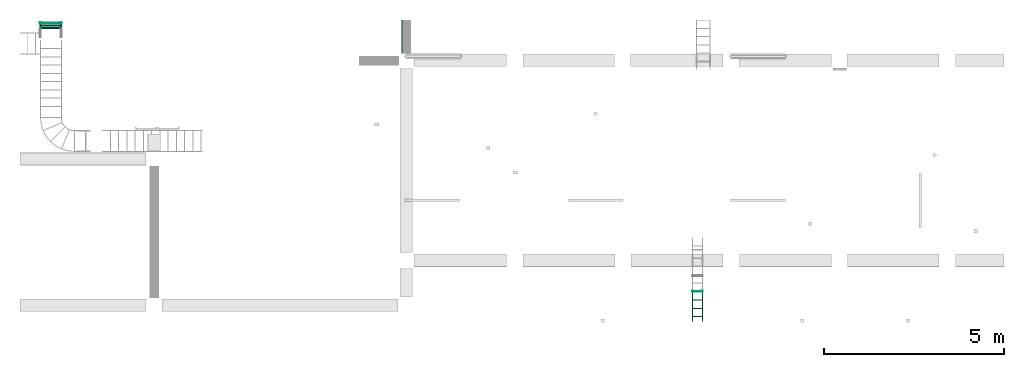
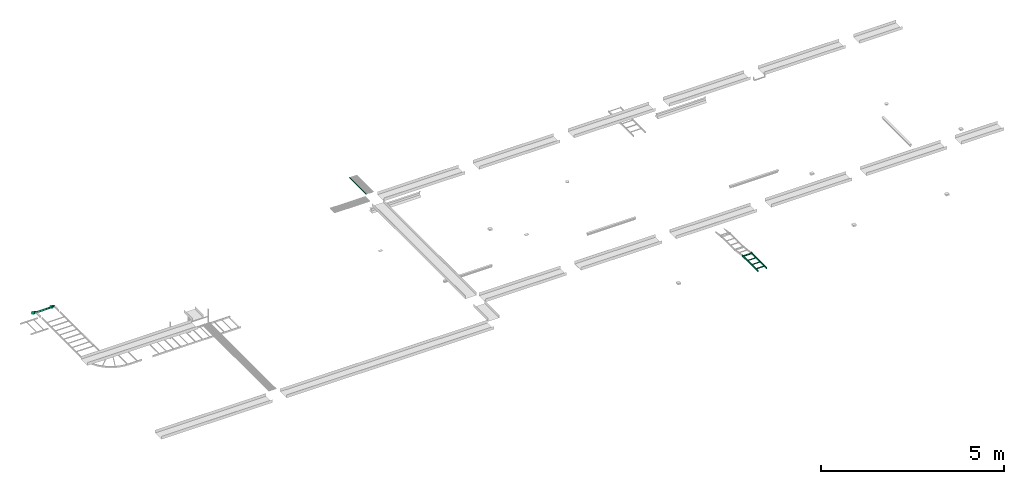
# One storey, part 13 of 14: 3 flow fittings, 3 flow segments.
"""IFC2X3 building model written with IfcOpenShell, lengths in millimetres."""

from ifc_helpers import new_model, entity, si_unit, converted_unit, derived_unit, direction, frame, origin_with_axes, place, context, subcontext, project, spatial, open_shell, faceted_brep, surface_model, source, transform, mapped, type_object, element, save


model = new_model("IFC2X3")

# Units and contexts
model_context = context("Model", 3, precision=0.01, world=frame((0.0, 4.29681676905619e-09, 0.0)), true_north=direction((4.01073788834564e-13, 1.0)))
plan_context = context("Plan", 3, precision=0.01, world=frame((0.0, 4.29681676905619e-09, 0.0)), true_north=direction((4.01073788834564e-13, 1.0)))
body_context = subcontext(model_context, "Body", "Model", "MODEL_VIEW")
ifc_project = project(units=[converted_unit("PLANEANGLEUNIT", "DEGREE", entity("IfcPositiveLengthMeasure", 0.0174532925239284), si_unit("PLANEANGLEUNIT", "RADIAN"), dimensions=[0, 0, 0, 0, 0, 0, 0]), si_unit("AREAUNIT", "SQUARE_METRE"), si_unit("LENGTHUNIT", "METRE", prefix="MILLI"), si_unit("MASSUNIT", "GRAM", prefix="KILO"), si_unit("POWERUNIT", "WATT"), si_unit("PRESSUREUNIT", "PASCAL", prefix="KILO"), si_unit("FORCEUNIT", "NEWTON", prefix="KILO"), si_unit("ELECTRICVOLTAGEUNIT", "VOLT"), si_unit("ELECTRICCURRENTUNIT", "AMPERE"), si_unit("THERMODYNAMICTEMPERATUREUNIT", "DEGREE_CELSIUS"), si_unit("TIMEUNIT", "SECOND"), si_unit("VOLUMEUNIT", "CUBIC_METRE"), derived_unit("LINEARVELOCITYUNIT", [(si_unit("LENGTHUNIT", "METRE"), 1), (si_unit("TIMEUNIT", "SECOND"), -1)]), derived_unit("VOLUMETRICFLOWRATEUNIT", [(si_unit("VOLUMEUNIT", "CUBIC_METRE"), 1), (si_unit("TIMEUNIT", "SECOND"), -1)]), derived_unit("THERMALTRANSMITTANCEUNIT", [(si_unit("POWERUNIT", "WATT"), 1), (si_unit("THERMODYNAMICTEMPERATUREUNIT", "KELVIN"), -1), (si_unit("AREAUNIT", "SQUARE_METRE"), -1)]), derived_unit("SOUNDPRESSUREUNIT", [(si_unit("PRESSUREUNIT", "PASCAL"), 1)])], contexts=[model_context, plan_context])

# Site, building, storey
site_placement = place(None, frame((0.0, -4.29681676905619e-09, 0.0), z_axis=(0.0, 0.0, 1.0), x_axis=(1.0, 0.0, 0.0)))
site = spatial("IfcSite", under=ifc_project, at=site_placement, Name="ENGM", CompositionType="ELEMENT")
building_placement = place(site_placement, frame((0.0, 4.29681676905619e-09, 0.0), z_axis=(0.0, 0.0, 1.0), x_axis=(1.0, 0.0, 0.0)))
building = spatial("IfcBuilding", under=site, at=building_placement, Name="TG", CompositionType="ELEMENT")
storey_placement = place(building_placement, frame((0.0, 0.0, 205200.0), z_axis=(0.0, 0.0, 1.0), x_axis=(1.0, 0.0, 0.0)))
storey = spatial("IfcBuildingStorey", under=building, at=storey_placement, Name="Nivå D + 1,2", CompositionType="ELEMENT", Elevation=205200.0)

# Flow fittings
cable_carrier_fitting_type = type_object("IfcCableCarrierFittingType", Name="Standard 10mm", PredefinedType="BEND")
shared_shape_1 = source(origin_with_axes(), body_context, "Body", "SurfaceModel", [
    surface_model("IfcShellBasedSurfaceModel", [(-7.42641, 27.92893, 274.60001), (27.92893, -7.42641, 274.60001), (8.46353, -20.43277, 274.60001), (-10.67064, 25.7612, 274.60001), (8.46353, -20.43277, 300.0), (27.92893, -7.42641, 300.0), (-7.42641, 27.92893, 300.0), (-10.67064, 25.7612, 300.0), (-7.42641, 27.92893, -300.0), (27.92893, -7.42641, -300.0), (8.46353, -20.43277, -300.0), (-10.67064, 25.7612, -300.0), (8.46353, -20.43277, -274.60001), (27.92893, -7.42641, -274.60001), (-7.42641, 27.92893, -274.60001), (-10.67064, 25.7612, -274.60001), (-14.49747, 25.0, 274.60001), (-14.49747, 25.0, 300.0), (-14.49747, -25.0, 274.60001), (-3.01697, -22.71639, 300.0), (-14.49747, -25.0, 300.0), (-3.01697, -22.71639, 274.60001), (16.41376, -15.1206, 274.60001), (18.19623, -13.92959, 300.0), (-14.49747, 25.0, -274.60001), (-14.49747, 25.0, -300.0), (-0.91441, -22.29816, -300.0), (-14.49747, -25.0, -300.0), (-3.01697, -22.71639, -274.60001), (-14.49747, -25.0, -274.60001), (18.19623, -13.92959, -274.60001), (18.19623, -13.92959, -300.0), (10.78279, 7.15474, -274.60001), (1.06263, 30.62128, -274.60001), (1.06263, 30.62128, 274.60001), (10.78279, 7.15474, 274.60001), (-12.68375, -2.56542, 274.60001), (-12.68375, -2.56542, -274.60001), (-22.40391, 20.90112, -274.60001), (-22.40391, 20.90112, 274.60001), (-24.49747, 25.0, 300.0), (-24.49747, 25.0, 274.60001), (-24.49747, -25.0, 274.60001), (-24.49747, -25.0, 300.0), (-24.49747, 25.0, -274.60001), (-24.49747, 25.0, -300.0), (-24.49747, -25.0, -300.0), (-24.49747, -25.0, -274.60001), (-0.35534, 35.0, 274.60001), (35.0, -0.35534, 274.60001), (-0.35534, 35.0, 300.0), (35.0, -0.35534, 300.0), (-0.35534, 35.0, -300.0), (35.0, -0.35534, -300.0), (-0.35534, 35.0, -274.60001), (35.0, -0.35534, -274.60001)], [open_shell([[[0, 1, 2]], [[0, 2, 3]], [[4, 5, 6]], [[4, 6, 7]], [[8, 9, 10]], [[8, 10, 11]], [[12, 13, 14]], [[12, 14, 15]], [[7, 16, 17]], [[3, 16, 7]], [[6, 0, 3]], [[7, 6, 3]], [[18, 19, 20]], [[21, 4, 19]], [[4, 21, 2]], [[4, 22, 23]], [[1, 5, 23]], [[22, 4, 2]], [[1, 23, 22]], [[18, 21, 19]], [[24, 11, 25]], [[15, 11, 24]], [[14, 8, 15]], [[11, 15, 8]], [[12, 26, 10]], [[27, 26, 28]], [[29, 27, 28]], [[26, 12, 28]], [[30, 12, 31]], [[9, 13, 30]], [[9, 30, 31]], [[12, 10, 31]], [[32, 33, 34]], [[34, 35, 32]], [[35, 36, 37]], [[37, 32, 35]], [[32, 37, 38]], [[38, 33, 32]], [[33, 38, 39]], [[39, 34, 33]], [[35, 34, 39]], [[39, 36, 35]], [[39, 38, 37]], [[37, 36, 39]], [[40, 41, 42]], [[42, 43, 40]], [[44, 45, 46]], [[46, 47, 44]], [[40, 17, 16]], [[16, 41, 40]], [[41, 18, 42]], [[18, 41, 16]], [[18, 16, 3]], [[3, 2, 18]], [[0, 48, 1]], [[1, 48, 49]], [[42, 18, 20]], [[20, 43, 42]], [[43, 20, 40]], [[17, 40, 20]], [[7, 17, 20]], [[20, 4, 7]], [[5, 50, 6]], [[50, 5, 51]], [[44, 24, 25]], [[25, 45, 44]], [[45, 27, 46]], [[27, 45, 25]], [[27, 25, 11]], [[11, 10, 27]], [[8, 52, 9]], [[9, 52, 53]], [[46, 27, 29]], [[29, 47, 46]], [[47, 29, 44]], [[24, 44, 29]], [[15, 24, 29]], [[29, 12, 15]], [[13, 54, 14]], [[54, 13, 55]], [[49, 48, 51]], [[50, 51, 48]], [[53, 52, 54]], [[54, 55, 53]], [[6, 50, 48]], [[48, 0, 6]], [[1, 49, 51]], [[51, 5, 1]], [[14, 54, 52]], [[52, 8, 14]], [[9, 53, 55]], [[55, 13, 9]]])]),
])
flow_fitting_1_placement = place(storey_placement, frame((322648.78146, 467286.02372, 4130.0), z_axis=(1.0, 0.0, 0.0), x_axis=(0.0, -0.707106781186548, 0.707106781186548)))
element("IfcFlowFitting", 1, at=flow_fitting_1_placement, inside=storey, type_object=cable_carrier_fitting_type, Name="Standard 10mm", context=body_context, shape_type="MappedRepresentation", body=[
    mapped(shared_shape_1, transform((0.0, 0.0, 0.0), scale=1.0)),
])
shared_shape_2 = source(origin_with_axes(), body_context, "Body", "SurfaceModel", [
    surface_model("IfcShellBasedSurfaceModel", [(12.69523, 0.47887, -124.6), (11.08068, 25.8275, -124.6), (11.08068, 25.8275, 124.6), (12.69523, 0.47887, 124.6), (-12.6534, -1.13569, 124.6), (-12.6534, -1.13569, -124.6), (-14.26796, 24.21295, -124.6), (-14.26796, 24.21295, 124.6), (-12.22929, 25.0, 150.0), (-12.22929, 25.0, 124.6), (-12.22929, -25.0, 124.6), (-12.22929, -25.0, 150.0), (-12.22929, 25.0, -124.6), (-12.22929, 25.0, -150.0), (-12.22929, -25.0, -150.0), (-12.22929, -25.0, -124.6), (-2.22929, 25.0, 150.0), (-2.22929, 25.0, 124.6), (-2.22929, -25.0, 124.6), (-1.59364, 25.02022, 124.6), (1.58462, -24.87866, 124.6), (-0.96056, 25.08081, 124.6), (8.95863, 26.34955, 124.6), (15.3023, -23.2464, 124.6), (5.38311, -24.51513, 124.6), (-2.22929, -25.0, 150.0), (-1.59364, 25.02022, 150.0), (1.58462, -24.87866, 150.0), (5.38311, -24.51513, 150.0), (-0.96056, 25.08081, 150.0), (15.3023, -23.2464, 150.0), (8.95863, 26.34955, 150.0), (-2.22929, 25.0, -124.6), (-2.22929, 25.0, -150.0), (-2.22929, -25.0, -150.0), (-1.59364, 25.02022, -150.0), (1.58462, -24.87866, -150.0), (-0.96056, 25.08081, -150.0), (8.95863, 26.34955, -150.0), (15.3023, -23.2464, -150.0), (5.38311, -24.51513, -150.0), (-2.22929, -25.0, -124.6), (-1.59364, 25.02022, -124.6), (1.58462, -24.87866, -124.6), (5.38311, -24.51513, -124.6), (-0.96056, 25.08081, -124.6), (15.3023, -23.2464, -124.6), (8.95863, 26.34955, -124.6)], [open_shell([[[0, 1, 2]], [[2, 3, 0]], [[3, 4, 5]], [[5, 0, 3]], [[0, 5, 6]], [[6, 1, 0]], [[1, 6, 7]], [[7, 2, 1]], [[3, 2, 7]], [[7, 4, 3]], [[7, 6, 5]], [[5, 4, 7]], [[8, 9, 10]], [[10, 11, 8]], [[12, 13, 14]], [[14, 15, 12]], [[8, 16, 17]], [[17, 9, 8]], [[10, 17, 18]], [[17, 10, 9]], [[18, 17, 19]], [[19, 20, 18]], [[21, 22, 23]], [[21, 24, 20]], [[24, 21, 23]], [[21, 20, 19]], [[10, 18, 25]], [[25, 11, 10]], [[11, 25, 16]], [[16, 8, 11]], [[26, 16, 25]], [[25, 27, 26]], [[27, 28, 29]], [[29, 30, 31]], [[30, 29, 28]], [[27, 29, 26]], [[12, 32, 33]], [[33, 13, 12]], [[14, 33, 34]], [[33, 14, 13]], [[34, 33, 35]], [[35, 36, 34]], [[37, 38, 39]], [[37, 40, 36]], [[40, 37, 39]], [[37, 36, 35]], [[14, 34, 41]], [[41, 15, 14]], [[15, 41, 32]], [[32, 12, 15]], [[42, 32, 41]], [[41, 43, 42]], [[43, 44, 45]], [[45, 46, 47]], [[46, 45, 44]], [[43, 45, 42]], [[19, 17, 16]], [[26, 19, 16]], [[29, 21, 26]], [[19, 26, 21]], [[27, 25, 18]], [[27, 18, 20]], [[27, 24, 28]], [[24, 27, 20]], [[32, 42, 33]], [[35, 33, 42]], [[45, 37, 35]], [[42, 45, 35]], [[41, 36, 43]], [[36, 41, 34]], [[36, 40, 44]], [[36, 44, 43]], [[23, 22, 30]], [[31, 30, 22]], [[39, 38, 47]], [[47, 46, 39]], [[29, 31, 22]], [[22, 21, 29]], [[24, 23, 30]], [[30, 28, 24]], [[45, 47, 38]], [[38, 37, 45]], [[40, 39, 46]], [[46, 44, 40]]])]),
])
flow_fitting_2_placement = place(storey_placement, frame((340570.0, 459976.89041, 4102.5), z_axis=(-1.0, 0.0, 0.0), x_axis=(0.0, 1.0, 0.0)))
element("IfcFlowFitting", 2, at=flow_fitting_2_placement, inside=storey, type_object=cable_carrier_fitting_type, Name="Standard 10mm", context=body_context, shape_type="MappedRepresentation", body=[
    mapped(shared_shape_2, transform((0.0, 0.0, 0.0), scale=1.0)),
])

# Flow segments
cable_carrier_segment_type_1 = type_object("IfcCableCarrierSegmentType", Name="Kabelbro", PredefinedType="CABLELADDERSEGMENT")
shared_shape_3 = source(origin_with_axes(), body_context, "Body", "SurfaceModel", [
    surface_model("IfcShellBasedSurfaceModel", [(0.0, -274.60001, 25.0), (0.0, -300.0, -25.0), (0.0, -300.0, 25.0), (0.0, -274.60001, -25.0), (0.0, 300.0, 25.0), (0.0, 274.60001, -25.0), (0.0, 274.60001, 25.0), (0.0, 300.0, -25.0), (148.92389, -300.0, 25.0), (148.92389, -300.0, -25.0), (148.92389, -274.60001, 25.0), (148.92389, -274.60001, -25.0), (148.92389, 274.60001, 25.0), (148.92389, 274.60001, -25.0), (148.92389, 300.0, 25.0), (148.92389, 300.0, -25.0), (87.16194, -274.60001, 0.4), (61.76194, -274.60001, 0.4), (61.76194, -274.60001, -25.0), (87.16194, -274.60001, -25.0), (61.76194, 274.60001, -25.0), (61.76194, 274.60001, 0.4), (87.16194, 274.60001, 0.4), (87.16194, 274.60001, -25.0)], [open_shell([[[0, 1, 2]], [[1, 0, 3]], [[4, 5, 6]], [[5, 4, 7]], [[8, 9, 10]], [[11, 10, 9]], [[12, 13, 14]], [[15, 14, 13]], [[1, 9, 8]], [[8, 2, 1]], [[2, 8, 10]], [[10, 0, 2]], [[0, 10, 11]], [[11, 3, 0]], [[3, 11, 9]], [[9, 1, 3]], [[4, 14, 15]], [[15, 7, 4]], [[7, 15, 13]], [[13, 5, 7]], [[5, 13, 12]], [[12, 6, 5]], [[6, 12, 14]], [[14, 4, 6]], [[16, 17, 18]], [[18, 19, 16]], [[20, 21, 22]], [[22, 23, 20]], [[19, 23, 22]], [[22, 16, 19]], [[16, 22, 21]], [[21, 17, 16]], [[17, 21, 20]], [[20, 18, 17]], [[18, 20, 23]], [[23, 19, 18]]])]),
])
flow_segment_1_placement = place(storey_placement, frame((322648.78146, 467408.65113, 4007.37258), z_axis=(0.0, 0.707106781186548, 0.707106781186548), x_axis=(0.0, -0.707106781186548, 0.707106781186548)))
element("IfcFlowSegment", 3, at=flow_segment_1_placement, inside=storey, type_object=cable_carrier_segment_type_1, Name="Kabelbro", context=body_context, shape_type="MappedRepresentation", body=[
    mapped(shared_shape_3, transform((0.0, 0.0, 0.0), scale=1.0)),
])
shared_shape_4 = source(origin_with_axes(), body_context, "Body", "SurfaceModel", [
    surface_model("IfcShellBasedSurfaceModel", [(241.30001, -124.6, 0.4), (215.89999, -124.6, 0.4), (215.89999, -124.6, -25.0), (241.30001, -124.6, -25.0), (215.89999, 124.6, -25.0), (215.89999, 124.6, 0.4), (241.30001, 124.6, 0.4), (241.30001, 124.6, -25.0), (469.89999, -124.6, 0.4), (444.50001, -124.6, 0.4), (444.50001, -124.6, -25.0), (469.89999, -124.6, -25.0), (444.50001, 124.6, -25.0), (444.50001, 124.6, 0.4), (469.89999, 124.6, 0.4), (469.89999, 124.6, -25.0), (698.50002, -124.6, 0.4), (673.09998, -124.6, 0.4), (673.09998, -124.6, -25.0), (698.50002, -124.6, -25.0), (673.09998, 124.6, -25.0), (673.09998, 124.6, 0.4), (698.50002, 124.6, 0.4), (698.50002, 124.6, -25.0), (0.0, -124.6, -25.0), (0.0, -150.0, 25.0), (0.0, -124.6, 25.0), (0.0, -150.0, -25.0), (0.0, 150.0, -25.0), (0.0, 124.6, 25.0), (0.0, 150.0, 25.0), (0.0, 124.6, -25.0), (824.66115, -124.6, 25.0), (824.66115, -150.0, 25.0), (824.66115, -124.6, -25.0), (824.66115, -150.0, -25.0), (824.66115, 150.0, 25.0), (824.66115, 124.6, 25.0), (824.66115, 150.0, -25.0), (824.66115, 124.6, -25.0)], [open_shell([[[0, 1, 2]], [[2, 3, 0]], [[4, 5, 6]], [[6, 7, 4]], [[3, 7, 6]], [[6, 0, 3]], [[0, 6, 5]], [[5, 1, 0]], [[1, 5, 4]], [[4, 2, 1]], [[2, 4, 7]], [[7, 3, 2]], [[8, 9, 10]], [[10, 11, 8]], [[12, 13, 14]], [[14, 15, 12]], [[11, 15, 14]], [[14, 8, 11]], [[8, 14, 13]], [[13, 9, 8]], [[9, 13, 12]], [[12, 10, 9]], [[10, 12, 15]], [[15, 11, 10]], [[16, 17, 18]], [[18, 19, 16]], [[20, 21, 22]], [[22, 23, 20]], [[19, 23, 22]], [[22, 16, 19]], [[16, 22, 21]], [[21, 17, 16]], [[17, 21, 20]], [[20, 18, 17]], [[18, 20, 23]], [[23, 19, 18]], [[24, 25, 26]], [[25, 24, 27]], [[28, 29, 30]], [[29, 28, 31]], [[32, 33, 34]], [[35, 34, 33]], [[36, 37, 38]], [[39, 38, 37]], [[27, 35, 33]], [[33, 25, 27]], [[25, 33, 32]], [[32, 26, 25]], [[26, 32, 34]], [[34, 24, 26]], [[24, 34, 35]], [[35, 27, 24]], [[30, 36, 38]], [[38, 28, 30]], [[28, 38, 39]], [[39, 31, 28]], [[31, 39, 37]], [[37, 29, 31]], [[29, 37, 36]], [[36, 30, 29]]])]),
])
flow_segment_2_placement = place(storey_placement, frame((340570.0, 459964.66112, 4102.5), z_axis=(0.0, 0.0, 1.0), x_axis=(0.0, -1.0, 0.0)))
element("IfcFlowSegment", 4, at=flow_segment_2_placement, inside=storey, type_object=cable_carrier_segment_type_1, Name="Kabelbro", context=body_context, shape_type="MappedRepresentation", body=[
    mapped(shared_shape_4, transform((0.0, 0.0, 0.0), scale=1.0)),
])

# Flow fitting
flow_fitting_3_placement = place(storey_placement, frame((322648.78146, 467421.02372, 3995.0), z_axis=(1.0, 0.0, 0.0), x_axis=(0.0, 0.707106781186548, -0.707106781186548)))
element("IfcFlowFitting", 5, at=flow_fitting_3_placement, inside=storey, type_object=cable_carrier_fitting_type, Name="Standard 10mm", context=body_context, shape_type="Brep", body=[
    faceted_brep([(-11.7912279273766, -4.7201601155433, -274.60001), (-10.0960497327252, -3.02498192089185, -274.60001), (-12.9899, -1.82631, -274.60001), (-6.00352717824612, 1.06754063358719, -274.60001), (-6.00352717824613, 1.06754063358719, 111.094180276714), (-12.9899, -1.82631, 274.60001), (-6.00352717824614, 1.06754063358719, 274.60001), (-10.0960497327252, -3.02498192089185, 274.60001), (-11.7912279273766, -4.72016011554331, 274.60001), (-11.7912279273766, -4.7201601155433, 206.873683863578), (-17.49748, -10.4264121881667, 282.003389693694), (-17.49748, -10.4264121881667, 274.60001), (-17.49748, 25.0, 274.60001), (-17.49748, 25.0, 300.0), (-17.49748, -10.4264121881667, 300.0), (-17.49748, -10.4264121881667, -292.596620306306), (-17.49748, -10.4264121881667, -300.0), (-17.49748, 25.0, -300.0), (-17.49748, 25.0, -274.60001), (-17.49748, -10.4264121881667, -274.60001), (-14.49747, 25.0, 274.60001), (-14.49747, 25.0, 300.0), (-10.67064, 25.7612, 300.0), (-10.67064, 25.7612, 274.60001), (-7.42641, 27.92893, 300.0), (-7.42641, 27.92893, 274.60001), (-5.30509, 30.05025, 274.60001), (-5.30509, 30.05025, 300.0), (-15.4922050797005, -8.42113726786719, 274.60001), (-14.49747, -7.42640218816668, 274.60001), (-3.61135243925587, 3.45971537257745, 274.60001), (-2.07106856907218, 4.99999924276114, 274.60001), (-0.431485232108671, 6.63958257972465, 274.60001), (6.71572609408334, 13.7867939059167, 274.60001), (7.98851808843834, 15.0595859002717, 274.60001), (8.83704609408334, 15.9081139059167, 274.60001), (-15.4922050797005, -8.42113726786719, 300.0), (-14.49747, -7.42640218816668, 300.0), (-3.61135243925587, 3.45971537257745, 300.0), (-2.07106856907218, 4.99999924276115, 300.0), (-0.43148523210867, 6.63958257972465, 300.0), (6.71572609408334, 13.7867939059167, 300.0), (7.98851808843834, 15.0595859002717, 300.0), (8.83704609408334, 15.9081139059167, 300.0), (-14.49747, 25.0, -300.0), (-14.49747, 25.0, -274.60001), (-10.67064, 25.7612, -300.0), (-10.67064, 25.7612, -274.60001), (-7.42641, 27.92893, -300.0), (-7.42641, 27.92893, -274.60001), (-5.30509, 30.05025, -300.0), (-5.30509, 30.05025, -274.60001), (-15.4922050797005, -8.42113726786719, -300.0), (-14.49747, -7.42640218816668, -300.0), (-3.61135243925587, 3.45971537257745, -300.0), (-2.07106856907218, 4.99999924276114, -300.0), (-0.431485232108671, 6.63958257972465, -300.0), (6.71572609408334, 13.7867939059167, -300.0), (7.98851808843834, 15.0595859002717, -300.0), (8.83704609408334, 15.9081139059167, -300.0), (-15.4922050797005, -8.42113726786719, -274.60001), (-14.49747, -7.42640218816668, -274.60001), (-3.61135243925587, 3.45971537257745, -274.60001), (-2.07106856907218, 4.99999924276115, -274.60001), (-0.43148523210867, 6.63958257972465, -274.60001), (6.71572609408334, 13.7867939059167, -274.60001), (7.98851808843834, 15.0595859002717, -274.60001), (8.83704609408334, 15.9081139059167, -274.60001), (8.83704609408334, 15.9081139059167, 284.760006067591), (8.83704609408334, 15.9081139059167, -284.760006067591)], [[[0, 1, 2]], [[1, 3, 2]], [[3, 4, 5, 2]], [[4, 6, 5]], [[6, 7, 5]], [[7, 8, 5]], [[9, 0, 2, 5]], [[8, 9, 5]], [[10, 11, 12, 13]], [[14, 10, 13]], [[15, 16, 17, 18]], [[19, 15, 18]], [[20, 21, 13]], [[21, 20, 22]], [[22, 20, 23]], [[23, 24, 22]], [[23, 25, 24]], [[24, 25, 26]], [[26, 27, 24]], [[13, 12, 20]], [[11, 28, 12]], [[28, 29, 20, 12]], [[29, 30, 20]], [[30, 31, 23, 20]], [[31, 32, 25, 23]], [[32, 33, 25]], [[33, 34, 26, 25]], [[34, 35, 26]], [[36, 14, 13]], [[37, 36, 13, 21]], [[38, 37, 21]], [[39, 38, 21, 22]], [[40, 39, 22, 24]], [[41, 40, 24]], [[42, 41, 24, 27]], [[43, 42, 27]], [[44, 45, 18]], [[44, 46, 45]], [[45, 46, 47]], [[48, 47, 46]], [[47, 48, 49]], [[49, 48, 50]], [[50, 51, 49]], [[18, 17, 44]], [[16, 52, 17]], [[52, 53, 44, 17]], [[53, 54, 44]], [[54, 55, 46, 44]], [[55, 56, 48, 46]], [[56, 57, 48]], [[57, 58, 50, 48]], [[58, 59, 50]], [[60, 19, 18]], [[61, 60, 18, 45]], [[62, 61, 45]], [[63, 62, 45, 47]], [[64, 63, 47, 49]], [[65, 64, 49]], [[66, 65, 49, 51]], [[67, 66, 51]], [[35, 68, 26]], [[68, 43, 27, 26]], [[59, 69, 51, 50]], [[69, 67, 51]], [[9, 8, 7, 6, 4, 3, 1, 0]], [[14, 36, 37, 38, 39, 40, 41, 42, 43, 68, 35, 34, 33, 32, 31, 30, 29, 28, 11, 10]], [[19, 60, 61, 62, 63, 64, 65, 66, 67, 69, 59, 58, 57, 56, 55, 54, 53, 52, 16, 15]]], orient=[[False], [False], [False], [False], [False], [False], [False], [False], [False], [False], [False], [False], [False], [False], [False], [False], [False], [False], [False], [False], [False], [False], [False], [False], [False], [False], [False], [False], [False], [False], [False], [False], [False], [False], [False], [False], [False], [False], [False], [False], [False], [False], [False], [False], [False], [False], [False], [False], [False], [False], [False], [False], [False], [False], [False], [False], [False], [False], [False], [False], [False], [False], [False], [False], [False], [False], [False]]),
])

# Flow segment
cable_carrier_segment_type_2 = type_object("IfcCableCarrierSegmentType", Name="Conduit", PredefinedType="CONDUITSEGMENT")
flow_segment_3_placement = place(storey_placement, frame((332382.4875, 476415.04, 4970.0), z_axis=(0.0, 0.0, 1.0), x_axis=(0.0, -1.0, 0.0)))
element("IfcFlowSegment", 6, at=flow_segment_3_placement, inside=storey, type_object=cable_carrier_segment_type_2, Name="Conduit", context=body_context, shape_type="Brep", body=[
    faceted_brep([(8915.04000000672, 10.3404814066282, -1.82330586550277), (8915.04000000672, 10.5, 0.0), (9830.0, 10.5, 0.0), (9830.0, 10.3404814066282, -1.82330586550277), (8915.04000000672, 9.86677251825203, -3.59121150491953), (9830.0, 9.86677251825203, -3.59121150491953), (8915.04000000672, 9.0932667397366, -5.25), (9830.0, 9.0932667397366, -5.25), (8915.04000000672, 8.04346665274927, -6.74926990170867), (9830.0, 8.04346665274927, -6.74926990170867), (8915.04000000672, 6.74926990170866, -8.04346665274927), (9830.0, 6.74926990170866, -8.04346665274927), (8915.04000000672, 5.25, -9.09326673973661), (9830.0, 5.25, -9.09326673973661), (8915.04000000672, 3.59121150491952, -9.86677251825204), (9830.0, 3.59121150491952, -9.86677251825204), (8915.04000000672, 1.82330586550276, -10.3404814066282), (9830.0, 1.82330586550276, -10.3404814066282), (8915.04000000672, -1.92881870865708e-15, -10.5), (9830.0, -1.92881870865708e-15, -10.5), (8915.04000000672, -1.82330586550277, -10.3404814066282), (9830.0, -1.82330586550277, -10.3404814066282), (8915.04000000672, -3.59121150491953, -9.86677251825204), (9830.0, -3.59121150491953, -9.86677251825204), (8915.04000000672, -5.25, -9.0932667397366), (9830.0, -5.25, -9.0932667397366), (8915.04000000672, -6.74926990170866, -8.04346665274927), (9830.0, -6.74926990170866, -8.04346665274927), (8915.04000000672, -8.04346665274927, -6.74926990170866), (9830.0, -8.04346665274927, -6.74926990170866), (8915.04000000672, -9.09326673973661, -5.25), (9830.0, -9.09326673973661, -5.25), (8915.04000000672, -9.86677251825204, -3.59121150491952), (9830.0, -9.86677251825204, -3.59121150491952), (8915.04000000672, -10.3404814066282, -1.82330586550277), (9830.0, -10.3404814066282, -1.82330586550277), (8915.04000000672, -10.5, 1.28587913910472e-15), (9830.0, -10.5, 1.28587913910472e-15), (8915.04000000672, -10.3404814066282, 1.82330586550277), (9830.0, -10.3404814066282, 1.82330586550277), (8915.04000000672, -9.86677251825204, 3.59121150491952), (9830.0, -9.86677251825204, 3.59121150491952), (8915.04000000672, -9.09326673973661, 5.25), (9830.0, -9.09326673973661, 5.25), (8915.04000000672, -8.04346665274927, 6.74926990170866), (9830.0, -8.04346665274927, 6.74926990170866), (8915.04000000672, -6.74926990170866, 8.04346665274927), (9830.0, -6.74926990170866, 8.04346665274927), (8915.04000000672, -5.25, 9.09326673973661), (9830.0, -5.25, 9.09326673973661), (8915.04000000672, -3.59121150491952, 9.86677251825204), (9830.0, -3.59121150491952, 9.86677251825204), (8915.04000000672, -1.82330586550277, 10.3404814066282), (9830.0, -1.82330586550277, 10.3404814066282), (8915.04000000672, 6.4293956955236e-16, 10.5), (9830.0, 6.4293956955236e-16, 10.5), (8915.04000000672, 1.82330586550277, 10.3404814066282), (9830.0, 1.82330586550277, 10.3404814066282), (8915.04000000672, 3.59121150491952, 9.86677251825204), (9830.0, 3.59121150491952, 9.86677251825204), (8915.04000000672, 5.25, 9.09326673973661), (9830.0, 5.25, 9.09326673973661), (8915.04000000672, 6.74926990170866, 8.04346665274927), (9830.0, 6.74926990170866, 8.04346665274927), (8915.04000000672, 8.04346665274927, 6.74926990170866), (9830.0, 8.04346665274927, 6.74926990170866), (8915.04000000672, 9.09326673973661, 5.25), (9830.0, 9.09326673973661, 5.25), (8915.04000000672, 9.86677251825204, 3.59121150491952), (9830.0, 9.86677251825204, 3.59121150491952), (8915.04000000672, 10.3404814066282, 1.82330586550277), (9830.0, 10.3404814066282, 1.82330586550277), (8915.04000000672, 12.5, 0.0), (8915.04000000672, 12.3100969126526, -2.17060222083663), (9830.0, 12.3100969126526, -2.17060222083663), (9830.0, 12.5, 0.0), (8915.04000000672, 12.3100969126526, 2.17060222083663), (9830.0, 12.3100969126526, 2.17060222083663), (8915.04000000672, 11.7461577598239, 4.27525179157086), (9830.0, 11.7461577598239, 4.27525179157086), (8915.04000000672, 10.8253175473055, 6.25), (9830.0, 10.8253175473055, 6.25), (8915.04000000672, 9.57555553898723, 8.03484512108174), (9830.0, 9.57555553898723, 8.03484512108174), (8915.04000000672, 8.03484512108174, 9.57555553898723), (9830.0, 8.03484512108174, 9.57555553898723), (8915.04000000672, 6.25, 10.8253175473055), (9830.0, 6.25, 10.8253175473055), (8915.04000000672, 4.27525179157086, 11.7461577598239), (9830.0, 4.27525179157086, 11.7461577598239), (8915.04000000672, 2.17060222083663, 12.3100969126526), (9830.0, 2.17060222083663, 12.3100969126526), (8915.04000000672, 7.65404249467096e-16, 12.5), (9830.0, 7.65404249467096e-16, 12.5), (8915.04000000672, -2.17060222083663, 12.3100969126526), (9830.0, -2.17060222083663, 12.3100969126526), (8915.04000000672, -4.27525179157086, 11.7461577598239), (9830.0, -4.27525179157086, 11.7461577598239), (8915.04000000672, -6.25, 10.8253175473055), (9830.0, -6.25, 10.8253175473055), (8915.04000000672, -8.03484512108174, 9.57555553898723), (9830.0, -8.03484512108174, 9.57555553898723), (8915.04000000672, -9.57555553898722, 8.03484512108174), (9830.0, -9.57555553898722, 8.03484512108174), (8915.04000000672, -10.8253175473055, 6.25), (9830.0, -10.8253175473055, 6.25), (8915.04000000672, -11.7461577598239, 4.27525179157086), (9830.0, -11.7461577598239, 4.27525179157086), (8915.04000000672, -12.3100969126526, 2.17060222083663), (9830.0, -12.3100969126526, 2.17060222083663), (8915.04000000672, -12.5, 1.53080849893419e-15), (9830.0, -12.5, 1.53080849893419e-15), (8915.04000000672, -12.3100969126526, -2.17060222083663), (9830.0, -12.3100969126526, -2.17060222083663), (8915.04000000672, -11.7461577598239, -4.27525179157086), (9830.0, -11.7461577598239, -4.27525179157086), (8915.04000000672, -10.8253175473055, -6.25), (9830.0, -10.8253175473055, -6.25), (8915.04000000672, -9.57555553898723, -8.03484512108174), (9830.0, -9.57555553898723, -8.03484512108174), (8915.04000000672, -8.03484512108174, -9.57555553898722), (9830.0, -8.03484512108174, -9.57555553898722), (8915.04000000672, -6.25000000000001, -10.8253175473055), (9830.0, -6.25000000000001, -10.8253175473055), (8915.04000000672, -4.27525179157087, -11.7461577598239), (9830.0, -4.27525179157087, -11.7461577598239), (8915.04000000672, -2.17060222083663, -12.3100969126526), (9830.0, -2.17060222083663, -12.3100969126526), (8915.04000000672, -2.29621274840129e-15, -12.5), (9830.0, -2.29621274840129e-15, -12.5), (8915.04000000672, 2.17060222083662, -12.3100969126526), (9830.0, 2.17060222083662, -12.3100969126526), (8915.04000000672, 4.27525179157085, -11.7461577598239), (9830.0, 4.27525179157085, -11.7461577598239), (8915.04000000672, 6.25, -10.8253175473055), (9830.0, 6.25, -10.8253175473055), (8915.04000000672, 8.03484512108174, -9.57555553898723), (9830.0, 8.03484512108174, -9.57555553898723), (8915.04000000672, 9.57555553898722, -8.03484512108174), (9830.0, 9.57555553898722, -8.03484512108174), (8915.04000000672, 10.8253175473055, -6.25000000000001), (9830.0, 10.8253175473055, -6.25000000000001), (8915.04000000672, 11.7461577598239, -4.27525179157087), (9830.0, 11.7461577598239, -4.27525179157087)], [[[0, 1, 2, 3]], [[4, 0, 3, 5]], [[6, 4, 5, 7]], [[8, 6, 7, 9]], [[10, 8, 9, 11]], [[12, 10, 11, 13]], [[14, 12, 13, 15]], [[16, 14, 15, 17]], [[18, 16, 17, 19]], [[20, 18, 19, 21]], [[22, 20, 21, 23]], [[24, 22, 23, 25]], [[26, 24, 25, 27]], [[28, 26, 27, 29]], [[30, 28, 29, 31]], [[32, 30, 31, 33]], [[34, 32, 33, 35]], [[36, 34, 35, 37]], [[38, 36, 37, 39]], [[40, 38, 39, 41]], [[42, 40, 41, 43]], [[44, 42, 43, 45]], [[46, 44, 45, 47]], [[48, 46, 47, 49]], [[50, 48, 49, 51]], [[52, 50, 51, 53]], [[54, 52, 53, 55]], [[56, 54, 55, 57]], [[58, 56, 57, 59]], [[60, 58, 59, 61]], [[62, 60, 61, 63]], [[64, 62, 63, 65]], [[66, 64, 65, 67]], [[68, 66, 67, 69]], [[70, 68, 69, 71]], [[1, 70, 71, 2]], [[72, 73, 74, 75]], [[76, 72, 75, 77]], [[78, 76, 77, 79]], [[80, 78, 79, 81]], [[82, 80, 81, 83]], [[84, 82, 83, 85]], [[86, 84, 85, 87]], [[88, 86, 87, 89]], [[90, 88, 89, 91]], [[92, 90, 91, 93]], [[94, 92, 93, 95]], [[96, 94, 95, 97]], [[98, 96, 97, 99]], [[100, 98, 99, 101]], [[102, 100, 101, 103]], [[104, 102, 103, 105]], [[106, 104, 105, 107]], [[108, 106, 107, 109]], [[110, 108, 109, 111]], [[112, 110, 111, 113]], [[114, 112, 113, 115]], [[116, 114, 115, 117]], [[118, 116, 117, 119]], [[120, 118, 119, 121]], [[122, 120, 121, 123]], [[124, 122, 123, 125]], [[126, 124, 125, 127]], [[128, 126, 127, 129]], [[130, 128, 129, 131]], [[132, 130, 131, 133]], [[134, 132, 133, 135]], [[136, 134, 135, 137]], [[138, 136, 137, 139]], [[140, 138, 139, 141]], [[142, 140, 141, 143]], [[73, 142, 143, 74]], [[75, 74, 143, 141, 139, 137, 135, 133, 131, 129, 127, 125, 123, 121, 119, 117, 115, 113, 111, 109, 107, 105, 103, 101, 99, 97, 95, 93, 91, 89, 87, 85, 83, 81, 79, 77], [2, 71, 69, 67, 65, 63, 61, 59, 57, 55, 53, 51, 49, 47, 45, 43, 41, 39, 37, 35, 33, 31, 29, 27, 25, 23, 21, 19, 17, 15, 13, 11, 9, 7, 5, 3]], [[76, 78, 80, 82, 84, 86, 88, 90, 92, 94, 96, 98, 100, 102, 104, 106, 108, 110, 112, 114, 116, 118, 120, 122, 124, 126, 128, 130, 132, 134, 136, 138, 140, 142, 73, 72], [4, 6, 8, 10, 12, 14, 16, 18, 20, 22, 24, 26, 28, 30, 32, 34, 36, 38, 40, 42, 44, 46, 48, 50, 52, 54, 56, 58, 60, 62, 64, 66, 68, 70, 1, 0]]], orient=[[False], [False], [False], [False], [False], [False], [False], [False], [False], [False], [False], [False], [False], [False], [False], [False], [False], [False], [False], [False], [False], [False], [False], [False], [False], [False], [False], [False], [False], [False], [False], [False], [False], [False], [False], [False], [False], [False], [False], [False], [False], [False], [False], [False], [False], [False], [False], [False], [False], [False], [False], [False], [False], [False], [False], [False], [False], [False], [False], [False], [False], [False], [False], [False], [False], [False], [False], [False], [False], [False], [False], [False], [False, False], [False, False]]),
])

save(model, "model.ifc")
